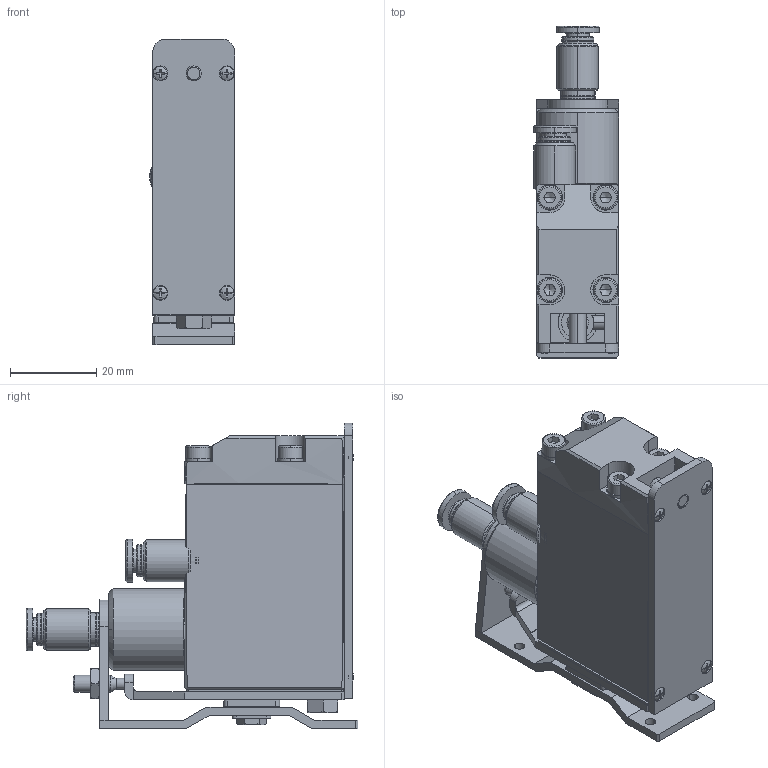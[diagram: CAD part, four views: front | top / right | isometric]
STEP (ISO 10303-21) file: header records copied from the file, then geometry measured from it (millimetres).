
FILE_DESCRIPTION (( 'STEP AP214' ), '1' );
FILE_NAME ('GT-NT03R-4.STEP', '2019-11-27T08:06:04', ( '微软用户' ), ( '微软中国' ), 'SwSTEP 2.0', 'SolidWorks 2016', '' );
FILE_SCHEMA (( 'AUTOMOTIVE_DESIGN' ));
Length unit declared in the file: millimetre
Products named in the file (1): GT-NT03R-4
Bounding box: 19.8 x 77.1 x 71.1 mm (x, y, z)
Surface area: 24373.5 mm2 (no closed solid volume)
Topology: 0 solids, 39 shells, 992 faces, 2491 edges, 1587 vertices
Faces by surface type: plane 426, cylinder 289, bspline 171, cone 66, torus 32, sphere 8
Entity records: 44715 total; most frequent: CARTESIAN_POINT 15245, ORIENTED_EDGE 4844, DIRECTION 4249, EDGE_CURVE 2451, AXIS2_PLACEMENT_3D 1615, VERTEX_POINT 1587, EDGE_LOOP 1121, LINE 1019
